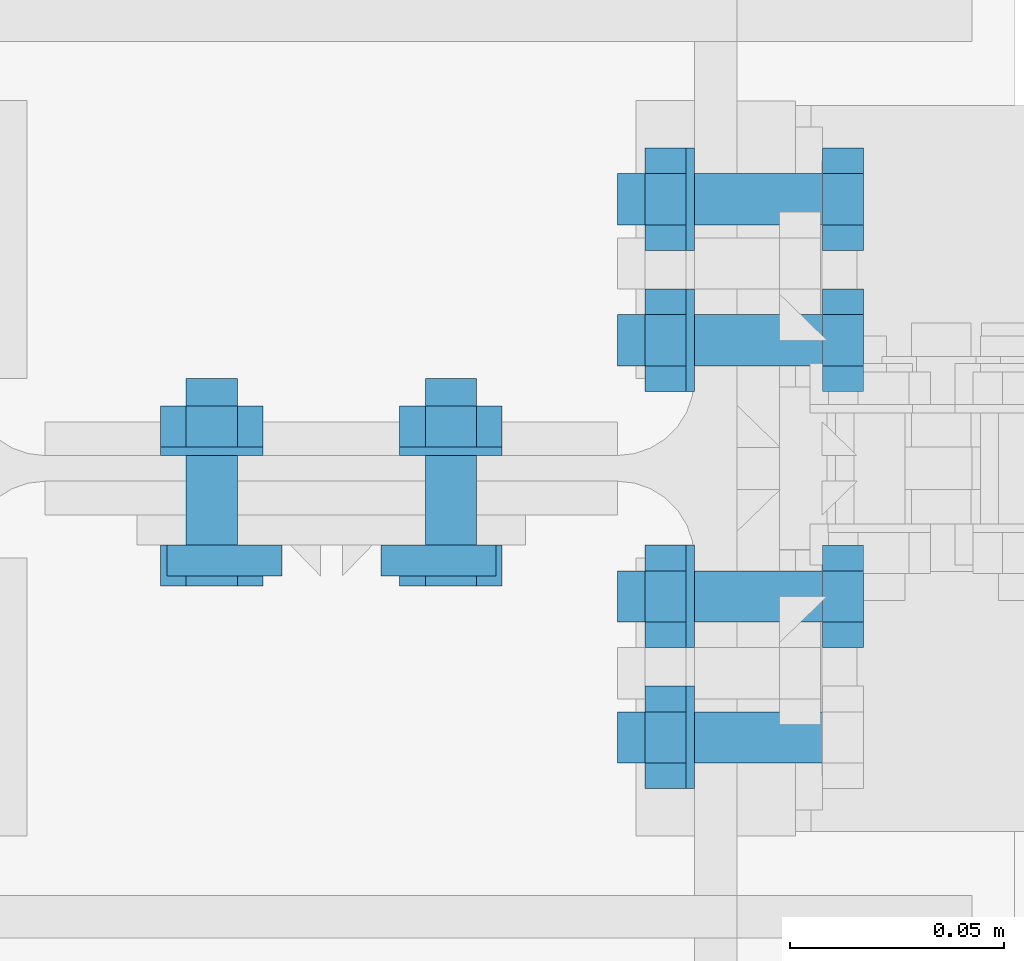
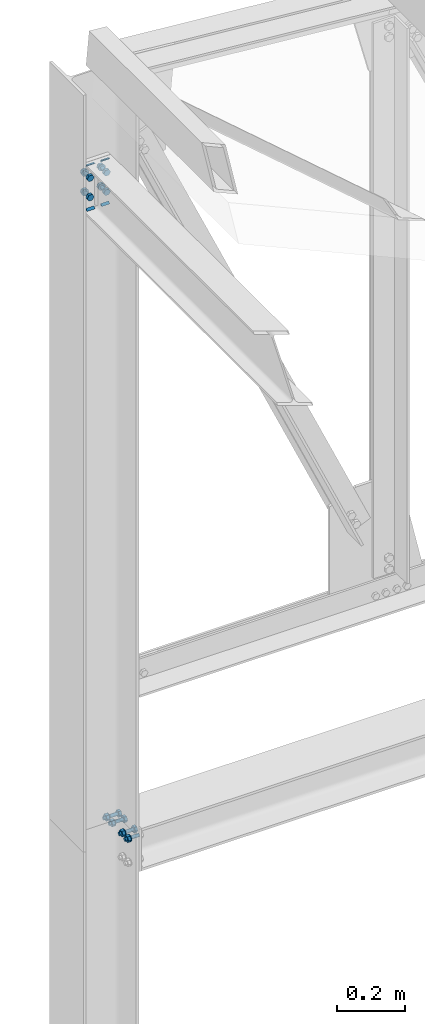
# One storey, part 189 of 251: 31 mechanical fasteners, 8 fasteners.
"""IFC4 building model written with IfcOpenShell, lengths in metres."""

from ifc_helpers import new_model, si_unit, frame, origin_with_axes, place, context, project, spatial, polyline, outline, extrude, type_object, element, save


model = new_model("IFC4")

# Units and contexts
model_context = context("Model", 3, precision=1e-05, world=origin_with_axes())
ifc_project = project(units=[si_unit("LENGTHUNIT", "METRE"), si_unit("AREAUNIT", "SQUARE_METRE"), si_unit("VOLUMEUNIT", "CUBIC_METRE"), si_unit("MASSUNIT", "GRAM", prefix="KILO"), si_unit("TIMEUNIT", "SECOND"), si_unit("PLANEANGLEUNIT", "RADIAN"), si_unit("SOLIDANGLEUNIT", "STERADIAN"), si_unit("THERMODYNAMICTEMPERATUREUNIT", "DEGREE_CELSIUS")], contexts=[model_context])

# Site, building, storey
placement_1 = place(None, origin_with_axes())
site = spatial("IfcSite", under=ifc_project, at=placement_1, Name="Italia", CompositionType="ELEMENT")
building = spatial("IfcBuilding", under=site, at=placement_1, Name="Deposito", CompositionType="ELEMENT")
storey = spatial("IfcBuildingStorey", under=building, at=placement_1, Name="Storey 0", CompositionType="ELEMENT", Elevation=0.0)

# Mechanical fasteners
mechanical_fastener_type_1 = type_object("IfcMechanicalFastenerType", Name="Collegamenti -051_7075 -053_7076", PredefinedType="BOLT")
placement_2 = place(placement_1, origin_with_axes())
mechanical_fastener_1_placement = place(placement_2, origin_with_axes())
element("IfcMechanicalFastener", 1, at=mechanical_fastener_1_placement, inside=storey, type_object=mechanical_fastener_type_1, Name="Collegamenti -051_7075 -053_7076", NominalDiameter=0.012, context=model_context, shape_type="SweptSolid", body=[
    extrude(outline(polyline([(0.0, 0.0), (-0.000204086, -0.00155306), (-0.000804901, -0.00299978), (-0.00175858, -0.00424242), (-0.00300026, -0.00519609), (-0.00444794, -0.00579548), (-0.00600052, -0.00600004), (-0.0075531, -0.00579548), (-0.00900078, -0.00519609), (-0.0102425, -0.00424242), (-0.0111961, -0.00299978), (-0.011797, -0.00155306), (-0.012001, 0.0), (-0.011797, 0.00155306), (-0.0111961, 0.00299978), (-0.0102425, 0.00424242), (-0.00900078, 0.00519609), (-0.0075531, 0.00579548), (-0.00600052, 0.00600004), (-0.00444794, 0.00579548), (-0.00300026, 0.00519609), (-0.00175858, 0.00424242), (-0.000804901, 0.00299978), (-0.000204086, 0.00155306), (0.0, 0.0)])), frame((6.117, 19.943, 4.467), z_axis=(1.0, 0.0, 0.0), x_axis=(0.0, 1.0, 0.0)), (0.0, 0.0, 1.0), 0.0479999),
])
mechanical_fastener_type_2 = type_object("IfcMechanicalFastenerType", Name="Collegamenti -051_7075 -053_7076", PredefinedType="BOLT")
mechanical_fastener_2_placement = place(placement_2, origin_with_axes())
element("IfcMechanicalFastener", 2, at=mechanical_fastener_2_placement, inside=storey, type_object=mechanical_fastener_type_2, Name="Collegamenti -051_7075 -053_7076", NominalDiameter=0.0119992, context=model_context, shape_type="SweptSolid", body=[
    extrude(outline(polyline([(0.0, 0.0), (-0.012001, 0.0), (-0.0180016, 0.0103927), (-0.012001, 0.0207849), (0.0, 0.0207849), (0.00599861, 0.0103927), (0.0, 0.0)])), frame((6.1234, 19.943, 4.45661), z_axis=(1.0, 0.0, 0.0), x_axis=(0.0, 1.0, 0.0)), (0.0, 0.0, 1.0), 0.00959969),
])
mechanical_fastener_type_3 = type_object("IfcMechanicalFastenerType", Name="Collegamenti -051_7075 -053_7076", PredefinedType="BOLT")
mechanical_fastener_3_placement = place(placement_2, origin_with_axes())
element("IfcMechanicalFastener", 3, at=mechanical_fastener_3_placement, inside=storey, type_object=mechanical_fastener_type_3, Name="Collegamenti -051_7075 -053_7076", NominalDiameter=0.024, context=model_context, shape_type="SweptSolid", body=[
    extrude(outline(polyline([(0.0, 0.0), (-0.000408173, -0.00310564), (-0.00160599, -0.00600004), (-0.00351334, -0.00848532), (-0.00599861, -0.0103922), (-0.00889397, -0.011591), (-0.0119991, -0.0120001), (-0.0151043, -0.011591), (-0.0179996, -0.0103922), (-0.0204849, -0.00848532), (-0.0223923, -0.00600004), (-0.0235901, -0.00310564), (-0.0239983, 0.0), (-0.0235901, 0.00310564), (-0.0223923, 0.00600004), (-0.0204849, 0.00848532), (-0.0179996, 0.0103922), (-0.0151043, 0.011591), (-0.0119991, 0.0120001), (-0.00889397, 0.011591), (-0.00599861, 0.0103922), (-0.00351334, 0.00848532), (-0.00160599, 0.00600004), (-0.000408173, 0.00310564), (0.0, 0.0)])), frame((6.133, 19.949, 4.467), z_axis=(1.0, 0.0, 0.0), x_axis=(0.0, 1.0, 0.0)), (0.0, 0.0, 1.0), 0.00199986),
])
mechanical_fastener_type_4 = type_object("IfcMechanicalFastenerType", Name="Collegamenti -051_7075 -053_7076", PredefinedType="BOLT")
mechanical_fastener_4_placement = place(placement_2, origin_with_axes())
element("IfcMechanicalFastener", 4, at=mechanical_fastener_4_placement, inside=storey, type_object=mechanical_fastener_type_4, Name="Collegamenti -051_7075 -053_7076", NominalDiameter=0.0119991, context=model_context, shape_type="SweptSolid", body=[
    extrude(outline(polyline([(0.0, 0.0), (-0.0119991, 0.0), (-0.0179996, 0.0103927), (-0.0119991, 0.0207849), (0.0, 0.0207849), (0.00600052, 0.0103927), (0.0, 0.0)])), frame((6.165, 19.976, 4.45661), z_axis=(1.0, 0.0, 0.0), x_axis=(0.0, 1.0, 0.0)), (0.0, 0.0, 1.0), 0.00960016),
])
mechanical_fastener_type_5 = type_object("IfcMechanicalFastenerType", Name="Collegamenti -051_7075 -053_7076", PredefinedType="BOLT")
mechanical_fastener_5_placement = place(placement_2, origin_with_axes())
element("IfcMechanicalFastener", 5, at=mechanical_fastener_5_placement, inside=storey, type_object=mechanical_fastener_type_5, Name="Collegamenti -051_7075 -053_7076", NominalDiameter=0.012, context=model_context, shape_type="SweptSolid", body=[
    extrude(outline(polyline([(0.0, 0.0), (-0.000204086, -0.00155306), (-0.000804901, -0.00299978), (-0.00175858, -0.00424242), (-0.00300026, -0.00519609), (-0.00444794, -0.00579548), (-0.00600052, -0.00600004), (-0.0075531, -0.00579548), (-0.00900078, -0.00519609), (-0.0102425, -0.00424242), (-0.0111961, -0.00299978), (-0.011797, -0.00155306), (-0.012001, 0.0), (-0.011797, 0.00155306), (-0.0111961, 0.00299978), (-0.0102425, 0.00424242), (-0.00900078, 0.00519609), (-0.0075531, 0.00579548), (-0.00600052, 0.00600004), (-0.00444794, 0.00579548), (-0.00300026, 0.00519609), (-0.00175858, 0.00424242), (-0.000804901, 0.00299978), (-0.000204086, 0.00155306), (0.0, 0.0)])), frame((6.117, 19.976, 4.467), z_axis=(1.0, 0.0, 0.0), x_axis=(0.0, 1.0, 0.0)), (0.0, 0.0, 1.0), 0.0479999),
])
mechanical_fastener_type_6 = type_object("IfcMechanicalFastenerType", Name="Collegamenti -051_7075 -053_7076", PredefinedType="BOLT")
mechanical_fastener_6_placement = place(placement_2, origin_with_axes())
element("IfcMechanicalFastener", 6, at=mechanical_fastener_6_placement, inside=storey, type_object=mechanical_fastener_type_6, Name="Collegamenti -051_7075 -053_7076", NominalDiameter=0.0119991, context=model_context, shape_type="SweptSolid", body=[
    extrude(outline(polyline([(0.0, 0.0), (-0.0119991, 0.0), (-0.0179996, 0.0103927), (-0.0119991, 0.0207849), (0.0, 0.0207849), (0.00600052, 0.0103927), (0.0, 0.0)])), frame((6.1234, 19.976, 4.45661), z_axis=(1.0, 0.0, 0.0), x_axis=(0.0, 1.0, 0.0)), (0.0, 0.0, 1.0), 0.00959969),
])
mechanical_fastener_type_7 = type_object("IfcMechanicalFastenerType", Name="Collegamenti -051_7075 -053_7076", PredefinedType="BOLT")
mechanical_fastener_7_placement = place(placement_2, origin_with_axes())
element("IfcMechanicalFastener", 7, at=mechanical_fastener_7_placement, inside=storey, type_object=mechanical_fastener_type_7, Name="Collegamenti -051_7075 -053_7076", NominalDiameter=0.024, context=model_context, shape_type="SweptSolid", body=[
    extrude(outline(polyline([(0.0, 0.0), (-0.000408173, -0.00310564), (-0.00160599, -0.00600004), (-0.00351334, -0.00848532), (-0.00599861, -0.0103922), (-0.00889397, -0.011591), (-0.0119991, -0.0120001), (-0.0151043, -0.011591), (-0.0179996, -0.0103922), (-0.0204849, -0.00848532), (-0.0223923, -0.00600004), (-0.0235901, -0.00310564), (-0.0239983, 0.0), (-0.0235901, 0.00310564), (-0.0223923, 0.00600004), (-0.0204849, 0.00848532), (-0.0179996, 0.0103922), (-0.0151043, 0.011591), (-0.0119991, 0.0120001), (-0.00889397, 0.011591), (-0.00599861, 0.0103922), (-0.00351334, 0.00848532), (-0.00160599, 0.00600004), (-0.000408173, 0.00310564), (0.0, 0.0)])), frame((6.133, 19.982, 4.467), z_axis=(1.0, 0.0, 0.0), x_axis=(0.0, 1.0, 0.0)), (0.0, 0.0, 1.0), 0.00199986),
])
mechanical_fastener_type_8 = type_object("IfcMechanicalFastenerType", Name="Collegamenti -051_7075 -053_7076", PredefinedType="BOLT")
mechanical_fastener_8_placement = place(placement_2, origin_with_axes())
element("IfcMechanicalFastener", 8, at=mechanical_fastener_8_placement, inside=storey, type_object=mechanical_fastener_type_8, Name="Collegamenti -051_7075 -053_7076", NominalDiameter=0.0119991, context=model_context, shape_type="SweptSolid", body=[
    extrude(outline(polyline([(0.0, 0.0), (-0.0119991, 0.0), (-0.0179996, 0.0103927), (-0.0119991, 0.0207849), (0.0, 0.0207849), (0.00600052, 0.0103927), (0.0, 0.0)])), frame((6.165, 20.036, 4.45661), z_axis=(1.0, 0.0, 0.0), x_axis=(0.0, 1.0, 0.0)), (0.0, 0.0, 1.0), 0.00960016),
])
mechanical_fastener_type_9 = type_object("IfcMechanicalFastenerType", Name="Collegamenti -051_7075 -053_7076", PredefinedType="BOLT")
mechanical_fastener_9_placement = place(placement_2, origin_with_axes())
element("IfcMechanicalFastener", 9, at=mechanical_fastener_9_placement, inside=storey, type_object=mechanical_fastener_type_9, Name="Collegamenti -051_7075 -053_7076", NominalDiameter=0.012, context=model_context, shape_type="SweptSolid", body=[
    extrude(outline(polyline([(0.0, 0.0), (-0.000204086, -0.00155306), (-0.000804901, -0.00299978), (-0.00175858, -0.00424242), (-0.00300026, -0.00519609), (-0.00444794, -0.00579548), (-0.00600052, -0.00600004), (-0.0075531, -0.00579548), (-0.00900078, -0.00519609), (-0.0102425, -0.00424242), (-0.0111961, -0.00299978), (-0.011797, -0.00155306), (-0.012001, 0.0), (-0.011797, 0.00155306), (-0.0111961, 0.00299978), (-0.0102425, 0.00424242), (-0.00900078, 0.00519609), (-0.0075531, 0.00579548), (-0.00600052, 0.00600004), (-0.00444794, 0.00579548), (-0.00300026, 0.00519609), (-0.00175858, 0.00424242), (-0.000804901, 0.00299978), (-0.000204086, 0.00155306), (0.0, 0.0)])), frame((6.117, 20.036, 4.467), z_axis=(1.0, 0.0, 0.0), x_axis=(0.0, 1.0, 0.0)), (0.0, 0.0, 1.0), 0.0479999),
])
mechanical_fastener_type_10 = type_object("IfcMechanicalFastenerType", Name="Collegamenti -051_7075 -053_7076", PredefinedType="BOLT")
mechanical_fastener_10_placement = place(placement_2, origin_with_axes())
element("IfcMechanicalFastener", 10, at=mechanical_fastener_10_placement, inside=storey, type_object=mechanical_fastener_type_10, Name="Collegamenti -051_7075 -053_7076", NominalDiameter=0.0119991, context=model_context, shape_type="SweptSolid", body=[
    extrude(outline(polyline([(0.0, 0.0), (-0.0119991, 0.0), (-0.0179996, 0.0103927), (-0.0119991, 0.0207849), (0.0, 0.0207849), (0.00600052, 0.0103927), (0.0, 0.0)])), frame((6.1234, 20.036, 4.45661), z_axis=(1.0, 0.0, 0.0), x_axis=(0.0, 1.0, 0.0)), (0.0, 0.0, 1.0), 0.00959969),
])
mechanical_fastener_type_11 = type_object("IfcMechanicalFastenerType", Name="Collegamenti -051_7075 -053_7076", PredefinedType="BOLT")
mechanical_fastener_11_placement = place(placement_2, origin_with_axes())
element("IfcMechanicalFastener", 11, at=mechanical_fastener_11_placement, inside=storey, type_object=mechanical_fastener_type_11, Name="Collegamenti -051_7075 -053_7076", NominalDiameter=0.024, context=model_context, shape_type="SweptSolid", body=[
    extrude(outline(polyline([(0.0, 0.0), (-0.000408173, -0.00310564), (-0.00160599, -0.00600004), (-0.00351334, -0.00848532), (-0.00599861, -0.0103922), (-0.00889397, -0.011591), (-0.0119991, -0.0120001), (-0.0151043, -0.011591), (-0.0179996, -0.0103922), (-0.0204849, -0.00848532), (-0.0223923, -0.00600004), (-0.0235901, -0.00310564), (-0.0239983, 0.0), (-0.0235901, 0.00310564), (-0.0223923, 0.00600004), (-0.0204849, 0.00848532), (-0.0179996, 0.0103922), (-0.0151043, 0.011591), (-0.0119991, 0.0120001), (-0.00889397, 0.011591), (-0.00599861, 0.0103922), (-0.00351334, 0.00848532), (-0.00160599, 0.00600004), (-0.000408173, 0.00310564), (0.0, 0.0)])), frame((6.133, 20.042, 4.467), z_axis=(1.0, 0.0, 0.0), x_axis=(0.0, 1.0, 0.0)), (0.0, 0.0, 1.0), 0.00199986),
])
mechanical_fastener_type_12 = type_object("IfcMechanicalFastenerType", Name="Collegamenti -051_7075 -053_7076", PredefinedType="BOLT")
mechanical_fastener_12_placement = place(placement_2, origin_with_axes())
element("IfcMechanicalFastener", 12, at=mechanical_fastener_12_placement, inside=storey, type_object=mechanical_fastener_type_12, Name="Collegamenti -051_7075 -053_7076", NominalDiameter=0.0119992, context=model_context, shape_type="SweptSolid", body=[
    extrude(outline(polyline([(0.0, 0.0), (-0.012001, 0.0), (-0.0179996, 0.0103927), (-0.012001, 0.0207849), (0.0, 0.0207849), (0.00600052, 0.0103927), (0.0, 0.0)])), frame((6.165, 20.069, 4.45661), z_axis=(1.0, 0.0, 0.0), x_axis=(0.0, 1.0, 0.0)), (0.0, 0.0, 1.0), 0.00960016),
])
mechanical_fastener_type_13 = type_object("IfcMechanicalFastenerType", Name="Collegamenti -051_7075 -053_7076", PredefinedType="BOLT")
mechanical_fastener_13_placement = place(placement_2, origin_with_axes())
element("IfcMechanicalFastener", 13, at=mechanical_fastener_13_placement, inside=storey, type_object=mechanical_fastener_type_13, Name="Collegamenti -051_7075 -053_7076", NominalDiameter=0.012, context=model_context, shape_type="SweptSolid", body=[
    extrude(outline(polyline([(0.0, 0.0), (-0.000204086, -0.00155306), (-0.000804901, -0.00299978), (-0.00175858, -0.00424242), (-0.00300026, -0.00519609), (-0.00444794, -0.00579548), (-0.00600052, -0.00600004), (-0.0075531, -0.00579548), (-0.00900078, -0.00519609), (-0.0102425, -0.00424242), (-0.0111961, -0.00299978), (-0.011797, -0.00155306), (-0.012001, 0.0), (-0.011797, 0.00155306), (-0.0111961, 0.00299978), (-0.0102425, 0.00424242), (-0.00900078, 0.00519609), (-0.0075531, 0.00579548), (-0.00600052, 0.00600004), (-0.00444794, 0.00579548), (-0.00300026, 0.00519609), (-0.00175858, 0.00424242), (-0.000804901, 0.00299978), (-0.000204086, 0.00155306), (0.0, 0.0)])), frame((6.117, 20.069, 4.467), z_axis=(1.0, 0.0, 0.0), x_axis=(0.0, 1.0, 0.0)), (0.0, 0.0, 1.0), 0.0479999),
])
mechanical_fastener_type_14 = type_object("IfcMechanicalFastenerType", Name="Collegamenti -051_7075 -053_7076", PredefinedType="BOLT")
mechanical_fastener_14_placement = place(placement_2, origin_with_axes())
element("IfcMechanicalFastener", 14, at=mechanical_fastener_14_placement, inside=storey, type_object=mechanical_fastener_type_14, Name="Collegamenti -051_7075 -053_7076", NominalDiameter=0.0119992, context=model_context, shape_type="SweptSolid", body=[
    extrude(outline(polyline([(0.0, 0.0), (-0.012001, 0.0), (-0.0179996, 0.0103927), (-0.012001, 0.0207849), (0.0, 0.0207849), (0.00600052, 0.0103927), (0.0, 0.0)])), frame((6.1234, 20.069, 4.45661), z_axis=(1.0, 0.0, 0.0), x_axis=(0.0, 1.0, 0.0)), (0.0, 0.0, 1.0), 0.00959969),
])
mechanical_fastener_type_15 = type_object("IfcMechanicalFastenerType", Name="Collegamenti -051_7075 -053_7076", PredefinedType="BOLT")
mechanical_fastener_15_placement = place(placement_2, origin_with_axes())
element("IfcMechanicalFastener", 15, at=mechanical_fastener_15_placement, inside=storey, type_object=mechanical_fastener_type_15, Name="Collegamenti -051_7075 -053_7076", NominalDiameter=0.024, context=model_context, shape_type="SweptSolid", body=[
    extrude(outline(polyline([(0.0, 0.0), (-0.000408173, -0.00310564), (-0.00160599, -0.00600004), (-0.00351334, -0.00848532), (-0.00599861, -0.0103922), (-0.00889397, -0.011591), (-0.0119991, -0.0120001), (-0.0151043, -0.011591), (-0.0179996, -0.0103922), (-0.0204849, -0.00848532), (-0.0223923, -0.00600004), (-0.0235901, -0.00310564), (-0.0239983, 0.0), (-0.0235901, 0.00310564), (-0.0223923, 0.00600004), (-0.0204849, 0.00848532), (-0.0179996, 0.0103922), (-0.0151043, 0.011591), (-0.0119991, 0.0120001), (-0.00889397, 0.011591), (-0.00599861, 0.0103922), (-0.00351334, 0.00848532), (-0.00160599, 0.00600004), (-0.000408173, 0.00310564), (0.0, 0.0)])), frame((6.133, 20.075, 4.467), z_axis=(1.0, 0.0, 0.0), x_axis=(0.0, 1.0, 0.0)), (0.0, 0.0, 1.0), 0.00199986),
])

# Fasteners
fastener_type_1 = type_object("IfcFastenerType", Name="Collegamento -073_-072", PredefinedType="WELD")
fastener_1_placement = place(placement_2, origin_with_axes())
element("IfcFastener", 16, at=fastener_1_placement, inside=storey, type_object=fastener_type_1, Name="Collegamento -073_-072", context=model_context, shape_type="SweptSolid", body=[
    extrude(outline(polyline([(0.0, 0.0), (-0.00717354, 0.00695801), (0.0, 0.00695801), (0.0, 0.0)])), frame((6.01145, 19.982, 6.89527), z_axis=(1.0, 0.0, 0.0), x_axis=(0.0, 1.0, 0.0)), (0.0, 0.0, 1.0), 0.0269499),
])
fastener_type_2 = type_object("IfcFastenerType", Name="Collegamento -073_-072", PredefinedType="WELD")
fastener_2_placement = place(placement_2, origin_with_axes())
element("IfcFastener", 17, at=fastener_2_placement, inside=storey, type_object=fastener_type_2, Name="Collegamento -073_-072", context=model_context, shape_type="SweptSolid", body=[
    extrude(outline(polyline([(0.0, 0.0), (0.00717354, -0.00695801), (0.0, -0.00695801), (0.0, 0.0)])), frame((6.0384, 19.982, 6.74509), z_axis=(-1.0, 0.0, 0.0), x_axis=(0.0, -1.0, 0.0)), (0.0, 0.0, 1.0), 0.0269499),
])
fastener_type_3 = type_object("IfcFastenerType", Name="Collegamento -073_-072", PredefinedType="WELD")
fastener_3_placement = place(placement_2, origin_with_axes())
element("IfcFastener", 18, at=fastener_3_placement, inside=storey, type_object=fastener_type_3, Name="Collegamento -073_-072", context=model_context, shape_type="SweptSolid", body=[
    extrude(outline(polyline([(0.0, 0.0), (0.00717354, -0.00695801), (0.0, -0.00695801), (0.0, 0.0)])), frame((6.08855, 19.982, 6.74509), z_axis=(-1.0, 0.0, 0.0), x_axis=(0.0, -1.0, 0.0)), (0.0, 0.0, 1.0), 0.0269499),
])
fastener_type_4 = type_object("IfcFastenerType", Name="Collegamento -073_-072", PredefinedType="WELD")
fastener_4_placement = place(placement_2, origin_with_axes())
element("IfcFastener", 19, at=fastener_4_placement, inside=storey, type_object=fastener_type_4, Name="Collegamento -073_-072", context=model_context, shape_type="SweptSolid", body=[
    extrude(outline(polyline([(0.0, 0.0), (-0.00717354, 0.00695801), (0.0, 0.00695801), (0.0, 0.0)])), frame((6.0616, 19.982, 6.89527), z_axis=(1.0, 0.0, 0.0), x_axis=(0.0, 1.0, 0.0)), (0.0, 0.0, 1.0), 0.0269499),
])
fastener_type_5 = type_object("IfcFastenerType", Name="Collegamento -073_-072", PredefinedType="WELD")
fastener_5_placement = place(placement_2, origin_with_axes())
element("IfcFastener", 20, at=fastener_5_placement, inside=storey, type_object=fastener_type_5, Name="Collegamento -073_-072", context=model_context, shape_type="SweptSolid", body=[
    extrude(outline(polyline([(0.0, 0.0), (-0.00717354, 0.00695801), (0.0, 0.00695801), (0.0, 0.0)])), frame((6.01145, 19.982, 6.89527), z_axis=(1.0, 0.0, 0.0), x_axis=(0.0, 1.0, 0.0)), (0.0, 0.0, 1.0), 0.0269499),
])
fastener_type_6 = type_object("IfcFastenerType", Name="Collegamento -073_-072", PredefinedType="WELD")
fastener_6_placement = place(placement_2, origin_with_axes())
element("IfcFastener", 21, at=fastener_6_placement, inside=storey, type_object=fastener_type_6, Name="Collegamento -073_-072", context=model_context, shape_type="SweptSolid", body=[
    extrude(outline(polyline([(0.0, 0.0), (0.00717354, -0.00695801), (0.0, -0.00695801), (0.0, 0.0)])), frame((6.0384, 19.982, 6.74509), z_axis=(-1.0, 0.0, 0.0), x_axis=(0.0, -1.0, 0.0)), (0.0, 0.0, 1.0), 0.0269499),
])
fastener_type_7 = type_object("IfcFastenerType", Name="Collegamento -073_-072", PredefinedType="WELD")
fastener_7_placement = place(placement_2, origin_with_axes())
element("IfcFastener", 22, at=fastener_7_placement, inside=storey, type_object=fastener_type_7, Name="Collegamento -073_-072", context=model_context, shape_type="SweptSolid", body=[
    extrude(outline(polyline([(0.0, 0.0), (0.00717354, -0.00695801), (0.0, -0.00695801), (0.0, 0.0)])), frame((6.08855, 19.982, 6.74509), z_axis=(-1.0, 0.0, 0.0), x_axis=(0.0, -1.0, 0.0)), (0.0, 0.0, 1.0), 0.0269499),
])
fastener_type_8 = type_object("IfcFastenerType", Name="Collegamento -073_-072", PredefinedType="WELD")
fastener_8_placement = place(placement_2, origin_with_axes())
element("IfcFastener", 23, at=fastener_8_placement, inside=storey, type_object=fastener_type_8, Name="Collegamento -073_-072", context=model_context, shape_type="SweptSolid", body=[
    extrude(outline(polyline([(0.0, 0.0), (-0.00717354, 0.00695801), (0.0, 0.00695801), (0.0, 0.0)])), frame((6.0616, 19.982, 6.89527), z_axis=(1.0, 0.0, 0.0), x_axis=(0.0, 1.0, 0.0)), (0.0, 0.0, 1.0), 0.0269499),
])

# Mechanical fasteners
mechanical_fastener_type_16 = type_object("IfcMechanicalFastenerType", Name="Collegamento -073_-072", PredefinedType="BOLT")
mechanical_fastener_16_placement = place(placement_2, origin_with_axes())
element("IfcMechanicalFastener", 24, at=mechanical_fastener_16_placement, inside=storey, type_object=mechanical_fastener_type_16, Name="Collegamento -073_-072", NominalDiameter=0.0119999, context=model_context, shape_type="SweptSolid", body=[
    extrude(outline(polyline([(0.0, 0.0), (-0.0120001, 0.0), (-0.0180001, 0.0103927), (-0.0120001, 0.0207849), (0.0, 0.0207849), (0.00600004, 0.0103927), (0.0, 0.0)])), frame((6.028, 19.982, 6.77479), z_axis=(0.0, -1.0, 0.0), x_axis=(1.0, 0.0, 0.0)), (0.0, 0.0, 1.0), 0.00959969),
])
mechanical_fastener_type_17 = type_object("IfcMechanicalFastenerType", Name="Collegamento -073_-072", PredefinedType="BOLT")
mechanical_fastener_17_placement = place(placement_2, origin_with_axes())
element("IfcMechanicalFastener", 25, at=mechanical_fastener_17_placement, inside=storey, type_object=mechanical_fastener_type_17, Name="Collegamento -073_-072", NominalDiameter=0.012, context=model_context, shape_type="SweptSolid", body=[
    extrude(outline(polyline([(0.0, 0.0), (-0.000204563, -0.00155306), (-0.000803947, -0.00299978), (-0.00175762, -0.00424242), (-0.00300026, -0.00519609), (-0.00444698, -0.00579548), (-0.00600004, -0.00600004), (-0.0075531, -0.00579548), (-0.00899982, -0.00519609), (-0.0102425, -0.00424242), (-0.0111961, -0.00299978), (-0.0117955, -0.00155306), (-0.0120001, 0.0), (-0.0117955, 0.00155306), (-0.0111961, 0.00299978), (-0.0102425, 0.00424242), (-0.00899982, 0.00519609), (-0.0075531, 0.00579548), (-0.00600004, 0.00600004), (-0.00444698, 0.00579548), (-0.00300026, 0.00519609), (-0.00175762, 0.00424242), (-0.000803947, 0.00299978), (-0.000204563, 0.00155306), (0.0, 0.0)])), frame((6.028, 20.021, 6.78518), z_axis=(0.0, -1.0, 0.0), x_axis=(1.0, 0.0, 0.0)), (0.0, 0.0, 1.0), 0.0389996),
])
mechanical_fastener_type_18 = type_object("IfcMechanicalFastenerType", Name="Collegamento -073_-072", PredefinedType="BOLT")
mechanical_fastener_18_placement = place(placement_2, origin_with_axes())
element("IfcMechanicalFastener", 26, at=mechanical_fastener_18_placement, inside=storey, type_object=mechanical_fastener_type_18, Name="Collegamento -073_-072", NominalDiameter=0.0119999, context=model_context, shape_type="SweptSolid", body=[
    extrude(outline(polyline([(0.0, 0.0), (-0.0120001, 0.0), (-0.0180001, 0.0103927), (-0.0120001, 0.0207849), (0.0, 0.0207849), (0.00600004, 0.0103927), (0.0, 0.0)])), frame((6.028, 20.0146, 6.77479), z_axis=(0.0, -1.0, 0.0), x_axis=(1.0, 0.0, 0.0)), (0.0, 0.0, 1.0), 0.00959969),
])
mechanical_fastener_type_19 = type_object("IfcMechanicalFastenerType", Name="Collegamento -073_-072", PredefinedType="BOLT")
mechanical_fastener_19_placement = place(placement_2, origin_with_axes())
element("IfcMechanicalFastener", 27, at=mechanical_fastener_19_placement, inside=storey, type_object=mechanical_fastener_type_19, Name="Collegamento -073_-072", NominalDiameter=0.024, context=model_context, shape_type="SweptSolid", body=[
    extrude(outline(polyline([(0.0, 0.0), (-0.000409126, -0.00310564), (-0.00160789, -0.00600004), (-0.00351477, -0.00848532), (-0.00600004, -0.0103922), (-0.00889444, -0.011591), (-0.0120001, -0.0120001), (-0.0151057, -0.011591), (-0.0180001, -0.0103922), (-0.0204854, -0.00848532), (-0.0223923, -0.00600004), (-0.023591, -0.00310564), (-0.0240002, 0.0), (-0.023591, 0.00310564), (-0.0223923, 0.00600004), (-0.0204854, 0.00848532), (-0.0180001, 0.0103922), (-0.0151057, 0.011591), (-0.0120001, 0.0120001), (-0.00889444, 0.011591), (-0.00600004, 0.0103922), (-0.00351477, 0.00848532), (-0.00160789, 0.00600004), (-0.000409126, 0.00310564), (0.0, 0.0)])), frame((6.034, 20.005, 6.78518), z_axis=(0.0, -1.0, 0.0), x_axis=(1.0, 0.0, 0.0)), (0.0, 0.0, 1.0), 0.0019989),
])
mechanical_fastener_type_20 = type_object("IfcMechanicalFastenerType", Name="Collegamento -073_-072", PredefinedType="BOLT")
mechanical_fastener_20_placement = place(placement_2, origin_with_axes())
element("IfcMechanicalFastener", 28, at=mechanical_fastener_20_placement, inside=storey, type_object=mechanical_fastener_type_20, Name="Collegamento -073_-072", NominalDiameter=0.0119999, context=model_context, shape_type="SweptSolid", body=[
    extrude(outline(polyline([(0.0, 0.0), (-0.0120001, 0.0), (-0.0180001, 0.0103927), (-0.0120001, 0.0207849), (0.0, 0.0207849), (0.00600004, 0.0103927), (0.0, 0.0)])), frame((6.084, 19.982, 6.77479), z_axis=(0.0, -1.0, 0.0), x_axis=(1.0, 0.0, 0.0)), (0.0, 0.0, 1.0), 0.00959969),
])
mechanical_fastener_type_21 = type_object("IfcMechanicalFastenerType", Name="Collegamento -073_-072", PredefinedType="BOLT")
mechanical_fastener_21_placement = place(placement_2, origin_with_axes())
element("IfcMechanicalFastener", 29, at=mechanical_fastener_21_placement, inside=storey, type_object=mechanical_fastener_type_21, Name="Collegamento -073_-072", NominalDiameter=0.012, context=model_context, shape_type="SweptSolid", body=[
    extrude(outline(polyline([(0.0, 0.0), (-0.000204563, -0.00155306), (-0.000803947, -0.00299978), (-0.00175762, -0.00424242), (-0.00300026, -0.00519609), (-0.00444698, -0.00579548), (-0.00600004, -0.00600004), (-0.0075531, -0.00579548), (-0.00899982, -0.00519609), (-0.0102425, -0.00424242), (-0.0111961, -0.00299978), (-0.0117955, -0.00155306), (-0.0120001, 0.0), (-0.0117955, 0.00155306), (-0.0111961, 0.00299978), (-0.0102425, 0.00424242), (-0.00899982, 0.00519609), (-0.0075531, 0.00579548), (-0.00600004, 0.00600004), (-0.00444698, 0.00579548), (-0.00300026, 0.00519609), (-0.00175762, 0.00424242), (-0.000803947, 0.00299978), (-0.000204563, 0.00155306), (0.0, 0.0)])), frame((6.084, 20.021, 6.78518), z_axis=(0.0, -1.0, 0.0), x_axis=(1.0, 0.0, 0.0)), (0.0, 0.0, 1.0), 0.0389996),
])
mechanical_fastener_type_22 = type_object("IfcMechanicalFastenerType", Name="Collegamento -073_-072", PredefinedType="BOLT")
mechanical_fastener_22_placement = place(placement_2, origin_with_axes())
element("IfcMechanicalFastener", 30, at=mechanical_fastener_22_placement, inside=storey, type_object=mechanical_fastener_type_22, Name="Collegamento -073_-072", NominalDiameter=0.0119999, context=model_context, shape_type="SweptSolid", body=[
    extrude(outline(polyline([(0.0, 0.0), (-0.0120001, 0.0), (-0.0180001, 0.0103927), (-0.0120001, 0.0207849), (0.0, 0.0207849), (0.00600004, 0.0103927), (0.0, 0.0)])), frame((6.084, 20.0146, 6.77479), z_axis=(0.0, -1.0, 0.0), x_axis=(1.0, 0.0, 0.0)), (0.0, 0.0, 1.0), 0.00959969),
])
mechanical_fastener_type_23 = type_object("IfcMechanicalFastenerType", Name="Collegamento -073_-072", PredefinedType="BOLT")
mechanical_fastener_23_placement = place(placement_2, origin_with_axes())
element("IfcMechanicalFastener", 31, at=mechanical_fastener_23_placement, inside=storey, type_object=mechanical_fastener_type_23, Name="Collegamento -073_-072", NominalDiameter=0.024, context=model_context, shape_type="SweptSolid", body=[
    extrude(outline(polyline([(0.0, 0.0), (-0.000409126, -0.00310564), (-0.00160789, -0.00600004), (-0.00351477, -0.00848532), (-0.00600004, -0.0103922), (-0.00889444, -0.011591), (-0.0120001, -0.0120001), (-0.0151057, -0.011591), (-0.0180001, -0.0103922), (-0.0204854, -0.00848532), (-0.0223923, -0.00600004), (-0.023591, -0.00310564), (-0.0240002, 0.0), (-0.023591, 0.00310564), (-0.0223923, 0.00600004), (-0.0204854, 0.00848532), (-0.0180001, 0.0103922), (-0.0151057, 0.011591), (-0.0120001, 0.0120001), (-0.00889444, 0.011591), (-0.00600004, 0.0103922), (-0.00351477, 0.00848532), (-0.00160789, 0.00600004), (-0.000409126, 0.00310564), (0.0, 0.0)])), frame((6.09, 20.005, 6.78518), z_axis=(0.0, -1.0, 0.0), x_axis=(1.0, 0.0, 0.0)), (0.0, 0.0, 1.0), 0.0019989),
])
mechanical_fastener_type_24 = type_object("IfcMechanicalFastenerType", Name="Collegamento -073_-072", PredefinedType="BOLT")
mechanical_fastener_24_placement = place(placement_2, origin_with_axes())
element("IfcMechanicalFastener", 32, at=mechanical_fastener_24_placement, inside=storey, type_object=mechanical_fastener_type_24, Name="Collegamento -073_-072", NominalDiameter=0.0119999, context=model_context, shape_type="SweptSolid", body=[
    extrude(outline(polyline([(0.0, 0.0), (-0.0120001, 0.0), (-0.0180001, 0.0103922), (-0.0120001, 0.0207849), (0.0, 0.0207849), (0.00600004, 0.0103922), (0.0, 0.0)])), frame((6.028, 19.982, 6.84479), z_axis=(0.0, -1.0, 0.0), x_axis=(1.0, 0.0, 0.0)), (0.0, 0.0, 1.0), 0.00959969),
])
mechanical_fastener_type_25 = type_object("IfcMechanicalFastenerType", Name="Collegamento -073_-072", PredefinedType="BOLT")
mechanical_fastener_25_placement = place(placement_2, origin_with_axes())
element("IfcMechanicalFastener", 33, at=mechanical_fastener_25_placement, inside=storey, type_object=mechanical_fastener_type_25, Name="Collegamento -073_-072", NominalDiameter=0.012, context=model_context, shape_type="SweptSolid", body=[
    extrude(outline(polyline([(0.0, 0.0), (-0.000204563, -0.00155306), (-0.000803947, -0.00299978), (-0.00175762, -0.00424242), (-0.00300026, -0.00519609), (-0.00444698, -0.00579548), (-0.00600004, -0.00600004), (-0.0075531, -0.00579548), (-0.00899982, -0.00519609), (-0.0102425, -0.00424242), (-0.0111961, -0.00299978), (-0.0117955, -0.00155306), (-0.0120001, 0.0), (-0.0117955, 0.00155306), (-0.0111961, 0.00299978), (-0.0102425, 0.00424242), (-0.00899982, 0.00519609), (-0.0075531, 0.00579548), (-0.00600004, 0.00600004), (-0.00444698, 0.00579548), (-0.00300026, 0.00519609), (-0.00175762, 0.00424242), (-0.000803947, 0.00299978), (-0.000204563, 0.00155306), (0.0, 0.0)])), frame((6.028, 20.021, 6.85518), z_axis=(0.0, -1.0, 0.0), x_axis=(1.0, 0.0, 0.0)), (0.0, 0.0, 1.0), 0.0389996),
])
mechanical_fastener_type_26 = type_object("IfcMechanicalFastenerType", Name="Collegamento -073_-072", PredefinedType="BOLT")
mechanical_fastener_26_placement = place(placement_2, origin_with_axes())
element("IfcMechanicalFastener", 34, at=mechanical_fastener_26_placement, inside=storey, type_object=mechanical_fastener_type_26, Name="Collegamento -073_-072", NominalDiameter=0.0119999, context=model_context, shape_type="SweptSolid", body=[
    extrude(outline(polyline([(0.0, 0.0), (-0.0120001, 0.0), (-0.0180001, 0.0103922), (-0.0120001, 0.0207849), (0.0, 0.0207849), (0.00600004, 0.0103922), (0.0, 0.0)])), frame((6.028, 20.0146, 6.84479), z_axis=(0.0, -1.0, 0.0), x_axis=(1.0, 0.0, 0.0)), (0.0, 0.0, 1.0), 0.00959969),
])
mechanical_fastener_type_27 = type_object("IfcMechanicalFastenerType", Name="Collegamento -073_-072", PredefinedType="BOLT")
mechanical_fastener_27_placement = place(placement_2, origin_with_axes())
element("IfcMechanicalFastener", 35, at=mechanical_fastener_27_placement, inside=storey, type_object=mechanical_fastener_type_27, Name="Collegamento -073_-072", NominalDiameter=0.024, context=model_context, shape_type="SweptSolid", body=[
    extrude(outline(polyline([(0.0, 0.0), (-0.000409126, -0.00310564), (-0.00160789, -0.00600004), (-0.00351477, -0.00848532), (-0.00600004, -0.0103922), (-0.00889444, -0.011591), (-0.0120001, -0.0120001), (-0.0151057, -0.011591), (-0.0180001, -0.0103922), (-0.0204854, -0.00848532), (-0.0223923, -0.00600004), (-0.023591, -0.00310564), (-0.0240002, 0.0), (-0.023591, 0.00310564), (-0.0223923, 0.00600004), (-0.0204854, 0.00848532), (-0.0180001, 0.0103922), (-0.0151057, 0.011591), (-0.0120001, 0.0120001), (-0.00889444, 0.011591), (-0.00600004, 0.0103922), (-0.00351477, 0.00848532), (-0.00160789, 0.00600004), (-0.000409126, 0.00310564), (0.0, 0.0)])), frame((6.034, 20.005, 6.85518), z_axis=(0.0, -1.0, 0.0), x_axis=(1.0, 0.0, 0.0)), (0.0, 0.0, 1.0), 0.0019989),
])
mechanical_fastener_type_28 = type_object("IfcMechanicalFastenerType", Name="Collegamento -073_-072", PredefinedType="BOLT")
mechanical_fastener_28_placement = place(placement_2, origin_with_axes())
element("IfcMechanicalFastener", 36, at=mechanical_fastener_28_placement, inside=storey, type_object=mechanical_fastener_type_28, Name="Collegamento -073_-072", NominalDiameter=0.0119999, context=model_context, shape_type="SweptSolid", body=[
    extrude(outline(polyline([(0.0, 0.0), (-0.0120001, 0.0), (-0.0180001, 0.0103922), (-0.0120001, 0.0207849), (0.0, 0.0207849), (0.00600004, 0.0103922), (0.0, 0.0)])), frame((6.084, 19.982, 6.84479), z_axis=(0.0, -1.0, 0.0), x_axis=(1.0, 0.0, 0.0)), (0.0, 0.0, 1.0), 0.00959969),
])
mechanical_fastener_type_29 = type_object("IfcMechanicalFastenerType", Name="Collegamento -073_-072", PredefinedType="BOLT")
mechanical_fastener_29_placement = place(placement_2, origin_with_axes())
element("IfcMechanicalFastener", 37, at=mechanical_fastener_29_placement, inside=storey, type_object=mechanical_fastener_type_29, Name="Collegamento -073_-072", NominalDiameter=0.012, context=model_context, shape_type="SweptSolid", body=[
    extrude(outline(polyline([(0.0, 0.0), (-0.000204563, -0.00155306), (-0.000803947, -0.00299978), (-0.00175762, -0.00424242), (-0.00300026, -0.00519609), (-0.00444698, -0.00579548), (-0.00600004, -0.00600004), (-0.0075531, -0.00579548), (-0.00899982, -0.00519609), (-0.0102425, -0.00424242), (-0.0111961, -0.00299978), (-0.0117955, -0.00155306), (-0.0120001, 0.0), (-0.0117955, 0.00155306), (-0.0111961, 0.00299978), (-0.0102425, 0.00424242), (-0.00899982, 0.00519609), (-0.0075531, 0.00579548), (-0.00600004, 0.00600004), (-0.00444698, 0.00579548), (-0.00300026, 0.00519609), (-0.00175762, 0.00424242), (-0.000803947, 0.00299978), (-0.000204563, 0.00155306), (0.0, 0.0)])), frame((6.084, 20.021, 6.85518), z_axis=(0.0, -1.0, 0.0), x_axis=(1.0, 0.0, 0.0)), (0.0, 0.0, 1.0), 0.0389996),
])
mechanical_fastener_type_30 = type_object("IfcMechanicalFastenerType", Name="Collegamento -073_-072", PredefinedType="BOLT")
mechanical_fastener_30_placement = place(placement_2, origin_with_axes())
element("IfcMechanicalFastener", 38, at=mechanical_fastener_30_placement, inside=storey, type_object=mechanical_fastener_type_30, Name="Collegamento -073_-072", NominalDiameter=0.0119999, context=model_context, shape_type="SweptSolid", body=[
    extrude(outline(polyline([(0.0, 0.0), (-0.0120001, 0.0), (-0.0180001, 0.0103922), (-0.0120001, 0.0207849), (0.0, 0.0207849), (0.00600004, 0.0103922), (0.0, 0.0)])), frame((6.084, 20.0146, 6.84479), z_axis=(0.0, -1.0, 0.0), x_axis=(1.0, 0.0, 0.0)), (0.0, 0.0, 1.0), 0.00959969),
])
mechanical_fastener_type_31 = type_object("IfcMechanicalFastenerType", Name="Collegamento -073_-072", PredefinedType="BOLT")
mechanical_fastener_31_placement = place(placement_2, origin_with_axes())
element("IfcMechanicalFastener", 39, at=mechanical_fastener_31_placement, inside=storey, type_object=mechanical_fastener_type_31, Name="Collegamento -073_-072", NominalDiameter=0.024, context=model_context, shape_type="SweptSolid", body=[
    extrude(outline(polyline([(0.0, 0.0), (-0.000409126, -0.00310564), (-0.00160789, -0.00600004), (-0.00351477, -0.00848532), (-0.00600004, -0.0103922), (-0.00889444, -0.011591), (-0.0120001, -0.0120001), (-0.0151057, -0.011591), (-0.0180001, -0.0103922), (-0.0204854, -0.00848532), (-0.0223923, -0.00600004), (-0.023591, -0.00310564), (-0.0240002, 0.0), (-0.023591, 0.00310564), (-0.0223923, 0.00600004), (-0.0204854, 0.00848532), (-0.0180001, 0.0103922), (-0.0151057, 0.011591), (-0.0120001, 0.0120001), (-0.00889444, 0.011591), (-0.00600004, 0.0103922), (-0.00351477, 0.00848532), (-0.00160789, 0.00600004), (-0.000409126, 0.00310564), (0.0, 0.0)])), frame((6.09, 20.005, 6.85518), z_axis=(0.0, -1.0, 0.0), x_axis=(1.0, 0.0, 0.0)), (0.0, 0.0, 1.0), 0.0019989),
])

save(model, "model.ifc")
